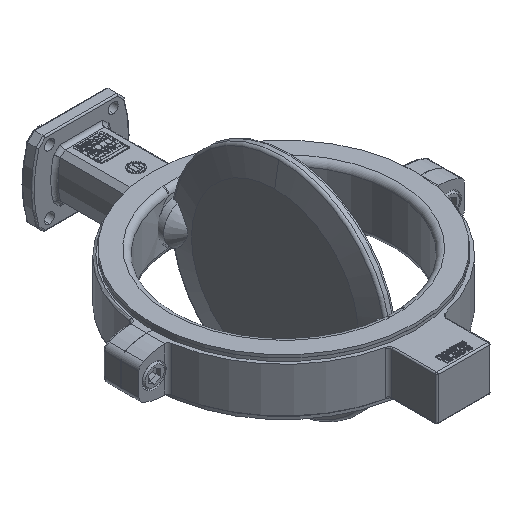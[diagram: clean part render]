
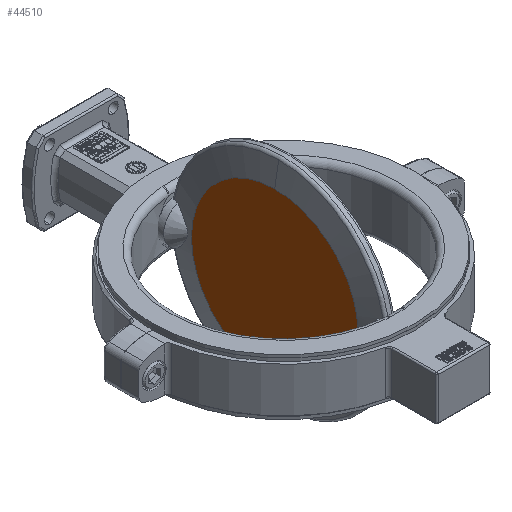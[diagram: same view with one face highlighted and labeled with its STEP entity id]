
A CAD part, isometric view. The second image highlights one B-rep face of the part: STEP entity #44510.
In plain terms, the highlighted planar face has unit normal (-1, 0, 0) as drawn and (0, 0, 1) by its records, which use the part's own axes.
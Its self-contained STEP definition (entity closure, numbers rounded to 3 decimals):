
#43539=CARTESIAN_POINT('',(0.,0.,12.5));
#43540=DIRECTION('',(0.,0.,-1.));
#43541=DIRECTION('',(-1.,0.,0.));
#43542=AXIS2_PLACEMENT_3D('',#43539,#43540,#43541);
#43544=CARTESIAN_POINT('',(0.,0.,12.5));
#43545=DIRECTION('',(0.,0.,1.));
#43546=DIRECTION('',(-1.,0.,0.));
#43547=AXIS2_PLACEMENT_3D('',#43544,#43545,#43546);
#44165=CARTESIAN_POINT('',(-115.591,0.,12.5));
#44167=VERTEX_POINT('',#44165);
#44169=CARTESIAN_POINT('',(115.591,0.,12.5));
#44171=VERTEX_POINT('',#44169);
#44501=CARTESIAN_POINT('',(0.,0.,12.5));
#44502=DIRECTION('',(0.,0.,-1.));
#44503=DIRECTION('',(1.,0.,0.));
#44504=AXIS2_PLACEMENT_3D('',#44501,#44502,#44503);
#44505=PLANE('',#44504);
#44506=ORIENTED_EDGE('',*,*,#44476,.T.);
#44507=ORIENTED_EDGE('',*,*,#44487,.F.);
#44508=EDGE_LOOP('',(#44506,#44507));
#44509=FACE_OUTER_BOUND('',#44508,.F.);
#44510=ADVANCED_FACE('',(#44509),#44505,.F.);
#43543=CIRCLE('',#43542,115.591);
#43548=CIRCLE('',#43547,115.591);
#44476=EDGE_CURVE('',#44167,#44171,#43543,.T.);
#44487=EDGE_CURVE('',#44167,#44171,#43548,.T.);
